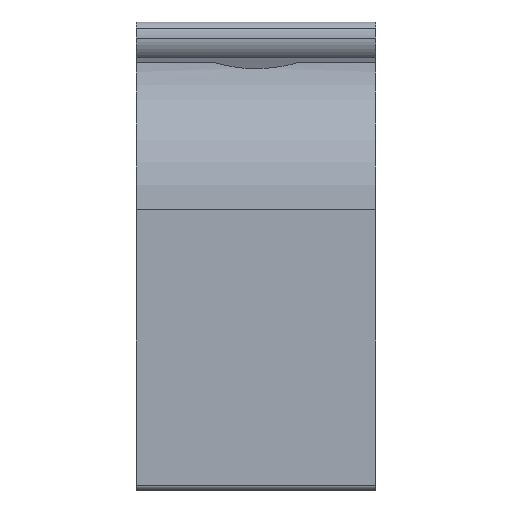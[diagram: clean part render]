
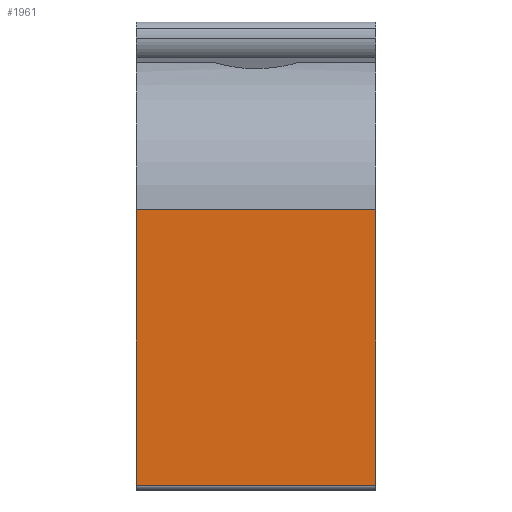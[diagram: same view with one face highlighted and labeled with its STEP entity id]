
A CAD part, top view. The second image highlights one B-rep face of the part: STEP entity #1961.
In plain terms, the highlighted planar face has unit normal (0, 0, 1).
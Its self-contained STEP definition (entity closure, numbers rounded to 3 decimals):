
#137 = LINE ( 'NONE', #1290, #4962 ) ;
#139 = VERTEX_POINT ( 'NONE', #2653 ) ;
#255 = EDGE_CURVE ( 'NONE', #847, #406, #4109, .T. ) ;
#406 = VERTEX_POINT ( 'NONE', #5010 ) ;
#545 = CARTESIAN_POINT ( 'NONE',  ( 30., 0., 19.373 ) ) ;
#594 = EDGE_LOOP ( 'NONE', ( #5228, #1065, #2137, #3527 ) ) ;
#597 = DIRECTION ( 'NONE',  ( 0., 0., 1. ) ) ;
#614 = FACE_OUTER_BOUND ( 'NONE', #594, .T. ) ;
#847 = VERTEX_POINT ( 'NONE', #545 ) ;
#877 = CARTESIAN_POINT ( 'NONE',  ( 0., -34.5, 19.373 ) ) ;
#1065 = ORIENTED_EDGE ( 'NONE', *, *, #4028, .F. ) ;
#1121 = CARTESIAN_POINT ( 'NONE',  ( 30., 0., 19.373 ) ) ;
#1290 = CARTESIAN_POINT ( 'NONE',  ( 30., -34.5, 19.373 ) ) ;
#1924 = CARTESIAN_POINT ( 'NONE',  ( 0., 0., 19.373 ) ) ;
#1961 = ADVANCED_FACE ( 'NONE', ( #614 ), #5270, .T. ) ;
#2137 = ORIENTED_EDGE ( 'NONE', *, *, #3778, .T. ) ;
#2396 = VECTOR ( 'NONE', #2982, 1000. ) ;
#2403 = VERTEX_POINT ( 'NONE', #877 ) ;
#2653 = CARTESIAN_POINT ( 'NONE',  ( 30., -34.5, 19.373 ) ) ;
#2864 = VECTOR ( 'NONE', #3126, 1000. ) ;
#2885 = EDGE_CURVE ( 'NONE', #2403, #406, #5594, .T. ) ;
#2982 = DIRECTION ( 'NONE',  ( 0., 1., 0. ) ) ;
#3126 = DIRECTION ( 'NONE',  ( -1., 0., 0. ) ) ;
#3527 = ORIENTED_EDGE ( 'NONE', *, *, #255, .T. ) ;
#3778 = EDGE_CURVE ( 'NONE', #139, #847, #5178, .T. ) ;
#3809 = DIRECTION ( 'NONE',  ( 0., 1., 0. ) ) ;
#3844 = DIRECTION ( 'NONE',  ( 0., -1., 0. ) ) ;
#4028 = EDGE_CURVE ( 'NONE', #139, #2403, #137, .T. ) ;
#4090 = DIRECTION ( 'NONE',  ( -1., 0., 0. ) ) ;
#4109 = LINE ( 'NONE', #4930, #2864 ) ;
#4190 = VECTOR ( 'NONE', #3809, 1000. ) ;
#4433 = AXIS2_PLACEMENT_3D ( 'NONE', #4753, #597, #3844 ) ;
#4753 = CARTESIAN_POINT ( 'NONE',  ( 30., 0., 19.373 ) ) ;
#4930 = CARTESIAN_POINT ( 'NONE',  ( 30., 0., 19.373 ) ) ;
#4962 = VECTOR ( 'NONE', #4090, 1000. ) ;
#5010 = CARTESIAN_POINT ( 'NONE',  ( 0., 0., 19.373 ) ) ;
#5178 = LINE ( 'NONE', #1121, #2396 ) ;
#5228 = ORIENTED_EDGE ( 'NONE', *, *, #2885, .F. ) ;
#5270 = PLANE ( 'NONE',  #4433 ) ;
#5594 = LINE ( 'NONE', #1924, #4190 ) ;
